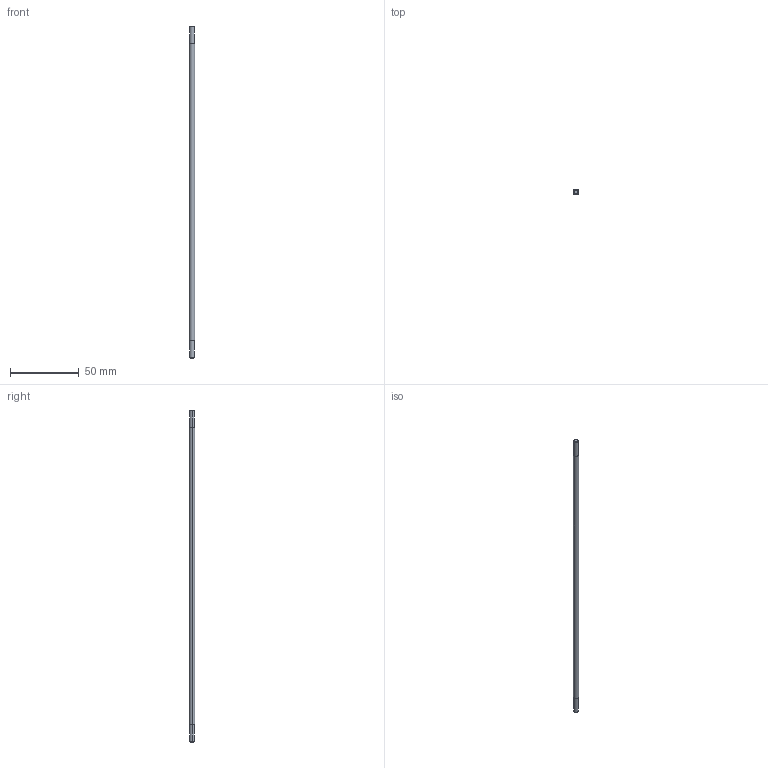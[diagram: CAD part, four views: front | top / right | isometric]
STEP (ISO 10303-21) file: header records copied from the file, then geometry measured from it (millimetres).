
FILE_DESCRIPTION (( 'STEP AP214' ), '1' );
FILE_NAME ('Shaft.STEP', '2026-09-02T03:15:36', ( '' ), ( '' ), 'SwSTEP 2.0', 'SolidWorks 2025', '' );
FILE_SCHEMA (( 'AUTOMOTIVE_DESIGN' ));
Length unit declared in the file: inch
Products named in the file (1): Shaft
Bounding box: 3.97 x 3.97 x 241.3 mm (x, y, z)
Volume: 2913.4 mm3; surface area: 2989.1 mm2
Topology: 1 solids, 1 shells, 14 faces, 26 edges, 16 vertices
Faces by surface type: cylinder 6, cone 4, plane 4
Entity records: 381 total; most frequent: DIRECTION 72, CARTESIAN_POINT 57, ORIENTED_EDGE 52, AXIS2_PLACEMENT_3D 31, EDGE_CURVE 26, VERTEX_POINT 16, EDGE_LOOP 16, CIRCLE 16
